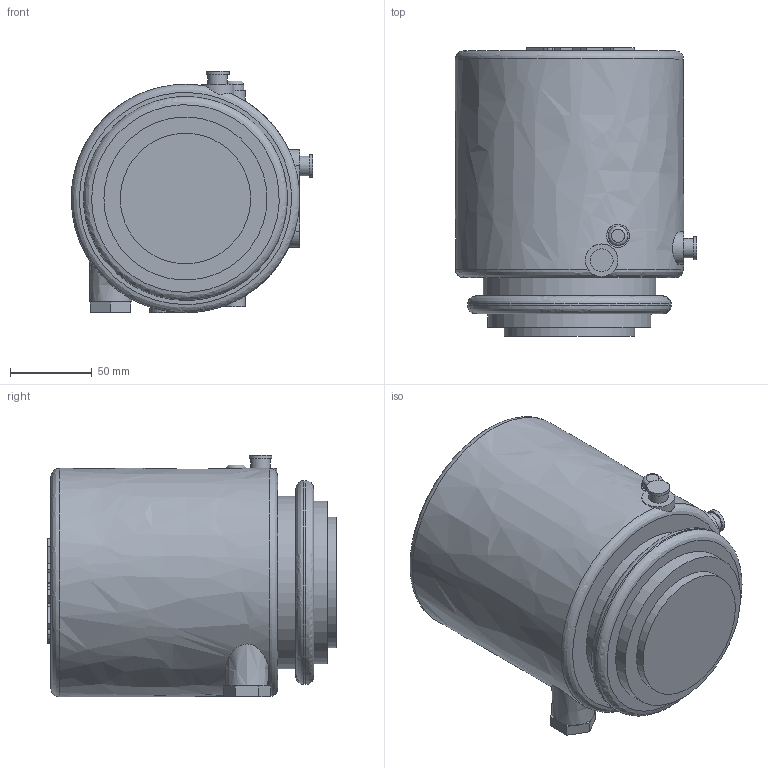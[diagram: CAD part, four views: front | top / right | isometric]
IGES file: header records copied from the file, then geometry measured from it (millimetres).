
Global section: file name: CU4 - maint. free; native system: Autodesk Inventor 2020; preprocessor: unknown; author: FA67NH; date: 20210423.134254; units: inch
Bounding box: 147.97 x 177 x 148 mm (x, y, z)
Volume: 2476703.8 mm3; surface area: 111309.3 mm2
Topology: 1 solids, 1 shells, 113 faces, 283 edges, 188 vertices
Faces by surface type: bspline 113
